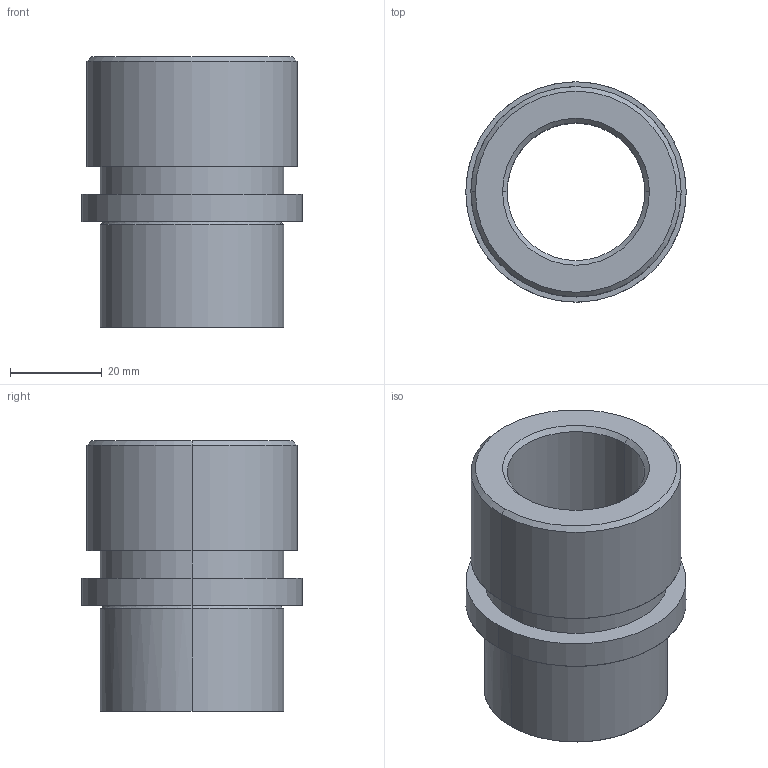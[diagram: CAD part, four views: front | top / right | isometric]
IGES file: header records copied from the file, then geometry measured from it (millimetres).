
Start section: START RECORD GO HERE.
Global section: file name: 735-24.igs; native system: DASSAULT SYSTEMES CATIA V5 R20 - www.3ds.com; preprocessor: CATIA Version 5 Release 20 ; author: Utente; organization: NB04-ASUS; date: 20210116.202745; units: millimetre
Bounding box: 48 x 48 x 59 mm (x, y, z)
Surface area: 16557.7 mm2 (no closed solid volume)
Topology: 0 solids, 0 shells, 25 faces, 100 edges, 100 vertices
Faces by surface type: revolution 20, plane 5
